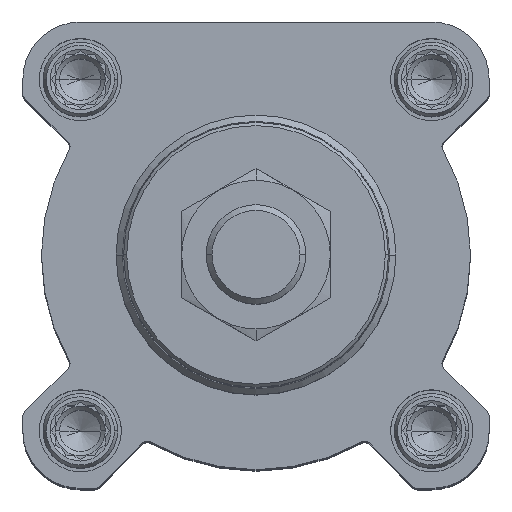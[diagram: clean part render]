
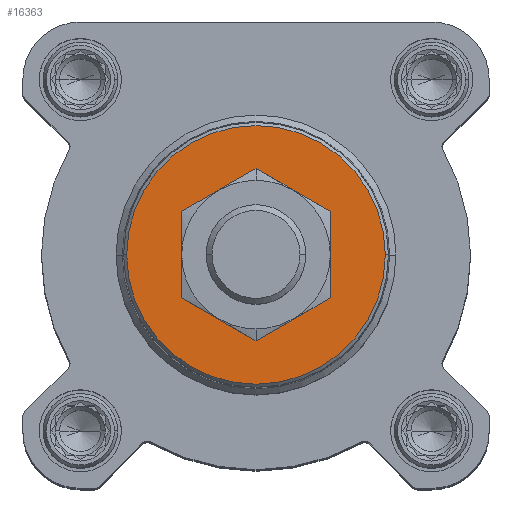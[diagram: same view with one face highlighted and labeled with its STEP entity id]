
A CAD part, top view. The second image highlights one B-rep face of the part: STEP entity #16363.
In plain terms, the highlighted planar face has unit normal (0, 0, 1).
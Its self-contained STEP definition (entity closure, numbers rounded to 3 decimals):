
#131 = CARTESIAN_POINT ( 'NONE',  ( 0., 0., 27. ) ) ;
#1687 = VERTEX_POINT ( 'NONE', #11417 ) ;
#1768 = VERTEX_POINT ( 'NONE', #2732 ) ;
#1978 = AXIS2_PLACEMENT_3D ( 'NONE', #16226, #18962, #3805 ) ;
#2732 = CARTESIAN_POINT ( 'NONE',  ( -10., 0., 27. ) ) ;
#2977 = EDGE_CURVE ( 'NONE', #1687, #12599, #7595, .T. ) ;
#3153 = EDGE_CURVE ( 'NONE', #12599, #1687, #6307, .T. ) ;
#3414 = AXIS2_PLACEMENT_3D ( 'NONE', #10316, #5581, #14677 ) ;
#3623 = CIRCLE ( 'NONE', #10395, 10. ) ;
#3805 = DIRECTION ( 'NONE',  ( 0., -1., 0. ) ) ;
#4762 = EDGE_LOOP ( 'NONE', ( #8642, #10285 ) ) ;
#5581 = DIRECTION ( 'NONE',  ( 0., 0., -1. ) ) ;
#6068 = DIRECTION ( 'NONE',  ( 0., 0., -1. ) ) ;
#6307 = CIRCLE ( 'NONE', #13404, 20.799 ) ;
#6332 = CARTESIAN_POINT ( 'NONE',  ( 0., 0., 27. ) ) ;
#7395 = CARTESIAN_POINT ( 'NONE',  ( 0., 0., 27. ) ) ;
#7595 = CIRCLE ( 'NONE', #3414, 20.799 ) ;
#7781 = EDGE_LOOP ( 'NONE', ( #9168, #15996 ) ) ;
#8162 = VERTEX_POINT ( 'NONE', #18061 ) ;
#8485 = CIRCLE ( 'NONE', #16246, 10. ) ;
#8642 = ORIENTED_EDGE ( 'NONE', *, *, #2977, .F. ) ;
#9168 = ORIENTED_EDGE ( 'NONE', *, *, #11913, .T. ) ;
#9194 = DIRECTION ( 'NONE',  ( -1., 0., 0. ) ) ;
#9544 = DIRECTION ( 'NONE',  ( -1., 0., 0. ) ) ;
#9739 = FACE_OUTER_BOUND ( 'NONE', #4762, .T. ) ;
#10047 = FACE_BOUND ( 'NONE', #7781, .T. ) ;
#10285 = ORIENTED_EDGE ( 'NONE', *, *, #3153, .F. ) ;
#10316 = CARTESIAN_POINT ( 'NONE',  ( 0., 0., 27. ) ) ;
#10334 = DIRECTION ( 'NONE',  ( -1., 0., 0. ) ) ;
#10395 = AXIS2_PLACEMENT_3D ( 'NONE', #7395, #19649, #10334 ) ;
#10773 = CARTESIAN_POINT ( 'NONE',  ( 20.799, 0., 27. ) ) ;
#11417 = CARTESIAN_POINT ( 'NONE',  ( -20.799, 0., 27. ) ) ;
#11913 = EDGE_CURVE ( 'NONE', #1768, #8162, #8485, .T. ) ;
#12492 = DIRECTION ( 'NONE',  ( 0., 0., -1. ) ) ;
#12599 = VERTEX_POINT ( 'NONE', #10773 ) ;
#13404 = AXIS2_PLACEMENT_3D ( 'NONE', #131, #6068, #9194 ) ;
#14677 = DIRECTION ( 'NONE',  ( -1., 0., 0. ) ) ;
#15996 = ORIENTED_EDGE ( 'NONE', *, *, #19186, .T. ) ;
#16226 = CARTESIAN_POINT ( 'NONE',  ( 0., 0., 27. ) ) ;
#16246 = AXIS2_PLACEMENT_3D ( 'NONE', #6332, #12492, #9544 ) ;
#16363 = ADVANCED_FACE ( 'NONE', ( #9739, #10047 ), #19368, .F. ) ;
#18061 = CARTESIAN_POINT ( 'NONE',  ( 10., 0., 27. ) ) ;
#18962 = DIRECTION ( 'NONE',  ( 0., 0., -1. ) ) ;
#19186 = EDGE_CURVE ( 'NONE', #8162, #1768, #3623, .T. ) ;
#19368 = PLANE ( 'NONE',  #1978 ) ;
#19649 = DIRECTION ( 'NONE',  ( 0., 0., -1. ) ) ;
